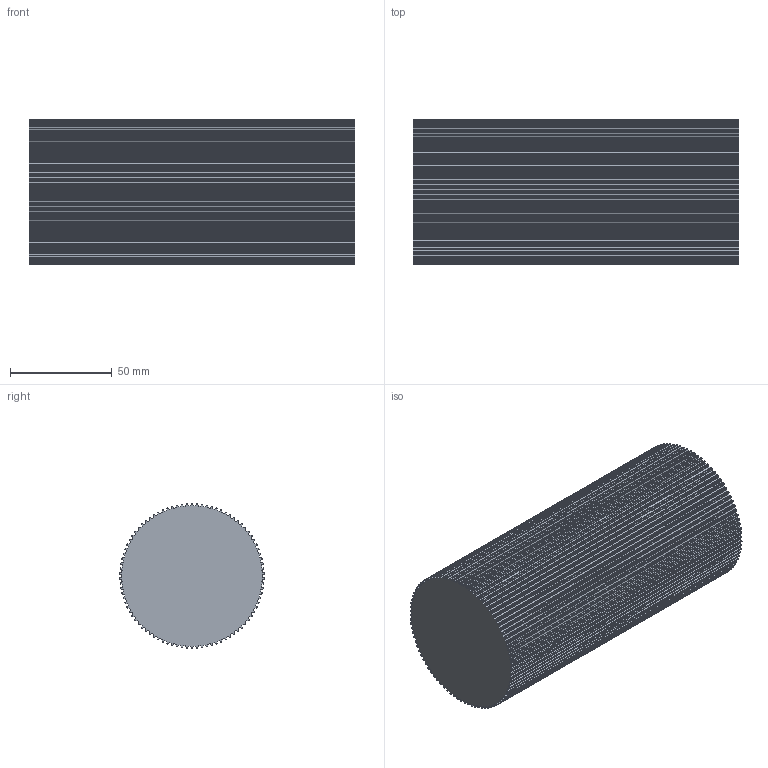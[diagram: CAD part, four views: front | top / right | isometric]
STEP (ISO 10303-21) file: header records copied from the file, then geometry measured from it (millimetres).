
FILE_DESCRIPTION( ( 'STEP AP214' ), '1' );
FILE_NAME( 'C:/Users/StangenbergN/Documents/CAD_Step/1/16099000.stp', '2019-07-25T19:43:10', ( '' ), ( '' ), ' ', 'PARTsolutions', ' ' );
FILE_SCHEMA( ( 'AUTOMOTIVE_DESIGN { 1 0 10303 214 1 1 1 1 }' ) );
Length unit declared in the file: millimetre
Products named in the file (1): _16099000
Bounding box: 160 x 71.08 x 71.12 mm (x, y, z)
Volume: 614335.6 mm3; surface area: 60654.8 mm2
Topology: 1 solids, 1 shells, 722 faces, 2160 edges, 1440 vertices
Faces by surface type: cylinder 450, plane 272
Entity records: 30476 total; most frequent: DIRECTION 4506, CARTESIAN_POINT 4323, ORIENTED_EDGE 4320, EDGE_CURVE 2160, AXIS2_PLACEMENT_3D 1623, VERTEX_POINT 1440, LINE 1260, VECTOR 1260
